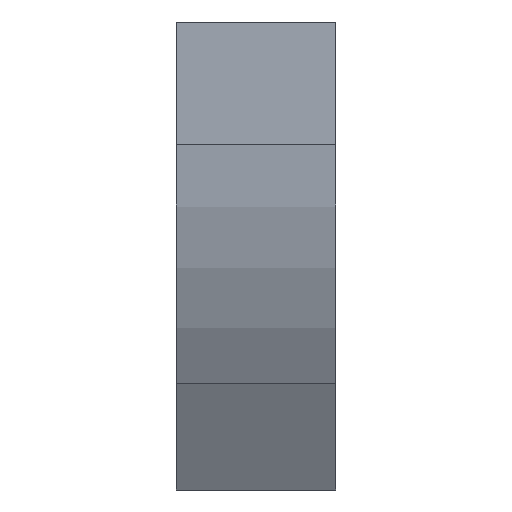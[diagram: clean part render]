
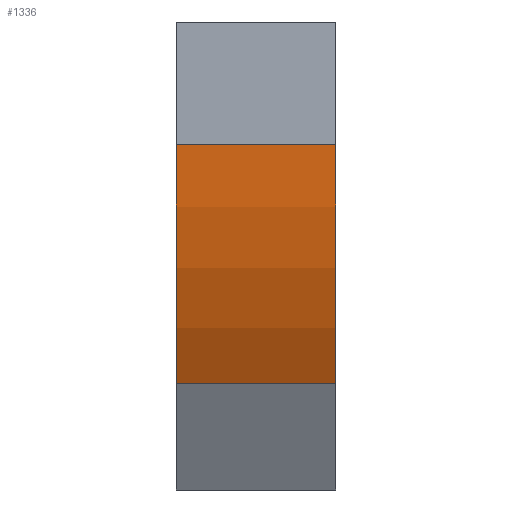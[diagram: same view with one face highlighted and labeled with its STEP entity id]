
A CAD part, left-side view. The second image highlights one B-rep face of the part: STEP entity #1336.
In plain terms, the highlighted cylindrical face has radius 300 mm (diameter 600 mm), a partial arc.
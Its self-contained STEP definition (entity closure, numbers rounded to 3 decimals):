
#47 = VERTEX_POINT ( 'NONE', #840 ) ;
#62 = DIRECTION ( 'NONE',  ( 0., -1., 0. ) ) ;
#93 = DIRECTION ( 'NONE',  ( 0., -1., 0. ) ) ;
#152 = FACE_OUTER_BOUND ( 'NONE', #472, .T. ) ;
#160 = AXIS2_PLACEMENT_3D ( 'NONE', #1188, #206, #1637 ) ;
#163 = CYLINDRICAL_SURFACE ( 'NONE', #160, 300. ) ;
#178 = ORIENTED_EDGE ( 'NONE', *, *, #636, .T. ) ;
#193 = DIRECTION ( 'NONE',  ( 0., -1., 0. ) ) ;
#198 = CARTESIAN_POINT ( 'NONE',  ( 40.192, 0., -226.795 ) ) ;
#206 = DIRECTION ( 'NONE',  ( 0., -1., 0. ) ) ;
#240 = DIRECTION ( 'NONE',  ( -1., 0., 0. ) ) ;
#266 = ORIENTED_EDGE ( 'NONE', *, *, #1052, .F. ) ;
#408 = ORIENTED_EDGE ( 'NONE', *, *, #1370, .T. ) ;
#431 = AXIS2_PLACEMENT_3D ( 'NONE', #1462, #1238, #1081 ) ;
#472 = EDGE_LOOP ( 'NONE', ( #835, #266, #178, #408 ) ) ;
#497 = VERTEX_POINT ( 'NONE', #1313 ) ;
#636 = EDGE_CURVE ( 'NONE', #1575, #497, #1279, .T. ) ;
#667 = VERTEX_POINT ( 'NONE', #1617 ) ;
#740 = CARTESIAN_POINT ( 'NONE',  ( 0., 100., -76.795 ) ) ;
#809 = LINE ( 'NONE', #822, #1127 ) ;
#822 = CARTESIAN_POINT ( 'NONE',  ( 0., 0., -76.795 ) ) ;
#835 = ORIENTED_EDGE ( 'NONE', *, *, #1194, .F. ) ;
#840 = CARTESIAN_POINT ( 'NONE',  ( 0., 0., -76.795 ) ) ;
#844 = AXIS2_PLACEMENT_3D ( 'NONE', #882, #93, #240 ) ;
#882 = CARTESIAN_POINT ( 'NONE',  ( 300., 0., -76.795 ) ) ;
#1052 = EDGE_CURVE ( 'NONE', #1575, #47, #809, .T. ) ;
#1081 = DIRECTION ( 'NONE',  ( -1., 0., 0. ) ) ;
#1127 = VECTOR ( 'NONE', #193, 1000. ) ;
#1156 = CIRCLE ( 'NONE', #844, 300. ) ;
#1188 = CARTESIAN_POINT ( 'NONE',  ( 300., 0., -76.795 ) ) ;
#1194 = EDGE_CURVE ( 'NONE', #47, #667, #1156, .T. ) ;
#1238 = DIRECTION ( 'NONE',  ( 0., -1., 0. ) ) ;
#1279 = CIRCLE ( 'NONE', #431, 300. ) ;
#1313 = CARTESIAN_POINT ( 'NONE',  ( 40.192, 100., -226.795 ) ) ;
#1336 = ADVANCED_FACE ( 'NONE', ( #152 ), #163, .T. ) ;
#1370 = EDGE_CURVE ( 'NONE', #497, #667, #1609, .T. ) ;
#1424 = VECTOR ( 'NONE', #62, 1000. ) ;
#1462 = CARTESIAN_POINT ( 'NONE',  ( 300., 100., -76.795 ) ) ;
#1575 = VERTEX_POINT ( 'NONE', #740 ) ;
#1609 = LINE ( 'NONE', #198, #1424 ) ;
#1617 = CARTESIAN_POINT ( 'NONE',  ( 40.192, 0., -226.795 ) ) ;
#1637 = DIRECTION ( 'NONE',  ( 0., 0., -1. ) ) ;
